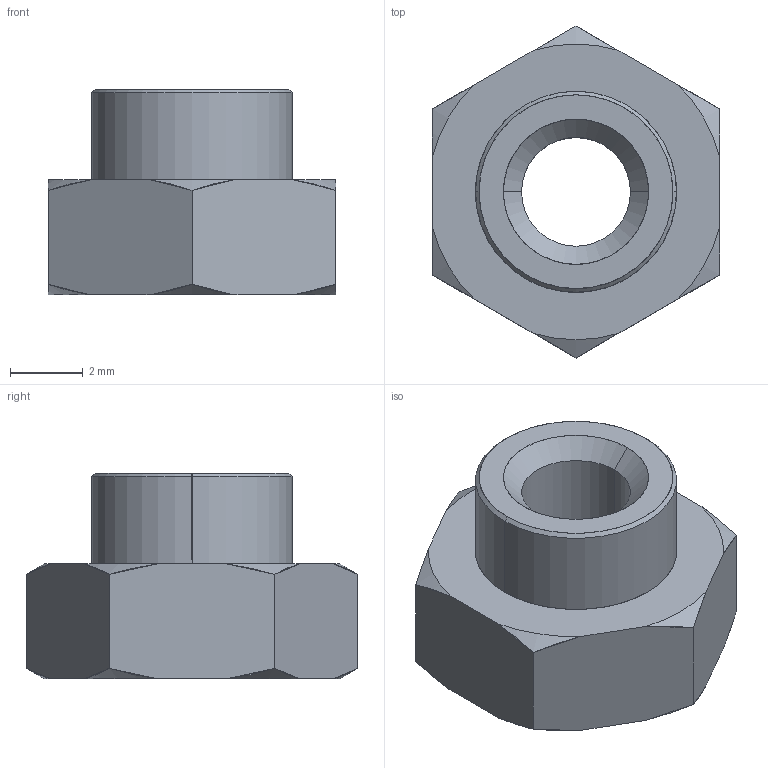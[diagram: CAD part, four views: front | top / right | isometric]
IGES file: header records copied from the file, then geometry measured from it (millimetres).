
Start section: SolidWorks IGES file using analytic representation for surfaces
Global section: file name: C:\Users\liam_\OneDrive\Desktop\Work\Mat Davis Pending 20181125\automotion\P SERIES\P0827.ZP_v2\P0827.ZP_v2_20181231_IGES\P0827.030-14G-ZP.igs; native system: SolidWorks 2017; preprocessor: SolidWorks 2017; author: liam_; date: 181231.110313; units: millimetre
Bounding box: 7.92 x 9.15 x 5.67 mm (x, y, z)
Surface area: 269.4 mm2 (no closed solid volume)
Topology: 0 solids, 0 shells, 31 faces, 336 edges, 336 vertices
Faces by surface type: revolution 22, bspline 9
